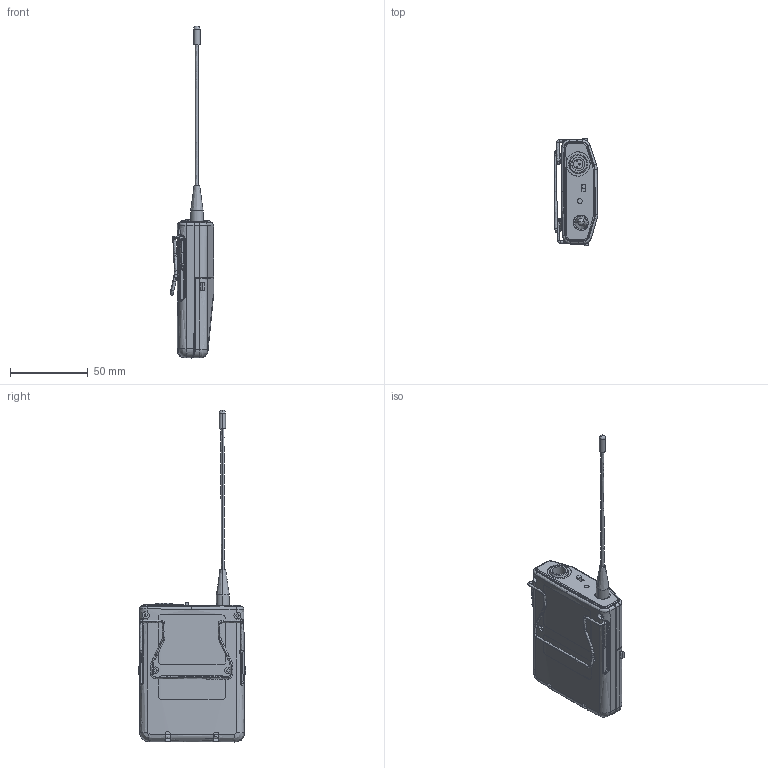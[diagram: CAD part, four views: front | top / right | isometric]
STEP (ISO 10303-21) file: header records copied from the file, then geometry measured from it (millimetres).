
FILE_DESCRIPTION(/* description */ (''),/* implementation_level */ '2;1');
FILE_NAME(/* name */ 'T-59LC',/* time_stamp */ '2025-01-16T17:27:48+08:00',/* author */ (''),/* organization */ (''),/* preprocessor_version */ 'ST-DEVELOPER v16.5',/* originating_system */ '',/* authorisation */ '');
FILE_SCHEMA (('CONFIG_CONTROL_DESIGN'));
Length unit declared in the file: millimetre
Products named in the file (1): Document
Bounding box: 28.14 x 69.33 x 213.17 mm (x, y, z)
Volume: 2714.9 mm3; surface area: 23699.4 mm2
Topology: 8 solids, 21 shells, 713 faces, 1868 edges, 1186 vertices
Faces by surface type: bspline 713
Entity records: 39246 total; most frequent: CARTESIAN_POINT 28951, ORIENTED_EDGE 3428, EDGE_CURVE 1857, B_SPLINE_CURVE_WITH_KNOTS 1229, VERTEX_POINT 1186, EDGE_LOOP 748, ADVANCED_FACE 713, FACE_OUTER_BOUND 713
